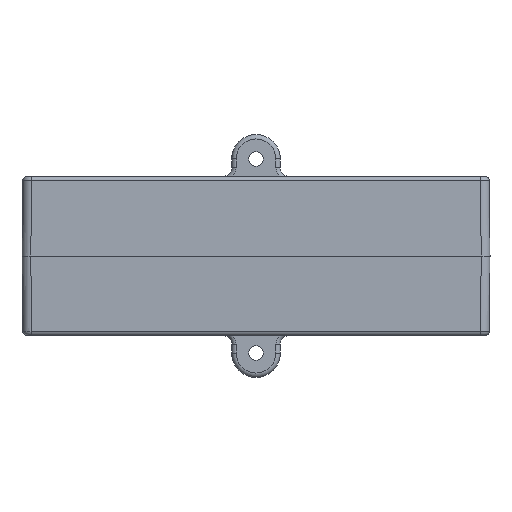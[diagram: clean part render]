
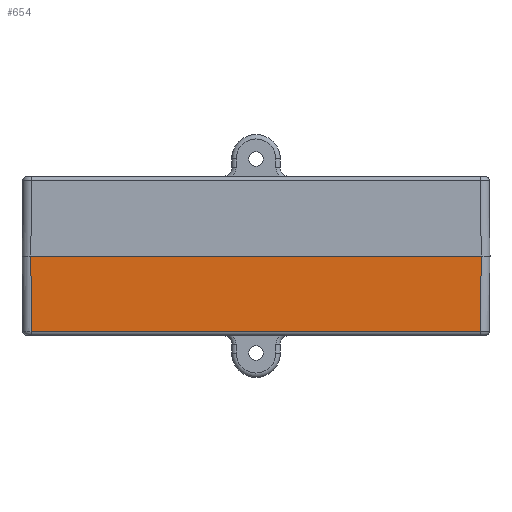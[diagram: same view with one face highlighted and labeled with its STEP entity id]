
A CAD part, front view. The second image highlights one B-rep face of the part: STEP entity #654.
In plain terms, the highlighted planar face has unit normal (0, -1, -0.009).
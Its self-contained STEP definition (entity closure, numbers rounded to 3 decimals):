
#654=ADVANCED_FACE('',(#1690),#1212,.T.);
#1212=PLANE('',#11638);
#1690=FACE_OUTER_BOUND('',#2254,.T.);
#2254=EDGE_LOOP('',(#3556,#3557,#3558,#3559));
#3556=ORIENTED_EDGE('',*,*,#7675,.T.);
#3557=ORIENTED_EDGE('',*,*,#7676,.F.);
#3558=ORIENTED_EDGE('',*,*,#7677,.F.);
#3559=ORIENTED_EDGE('',*,*,#7522,.F.);
#6361=VERTEX_POINT('',#15790);
#6362=VERTEX_POINT('',#15797);
#6494=VERTEX_POINT('',#16117);
#6495=VERTEX_POINT('',#16119);
#7522=EDGE_CURVE('',#6362,#6361,#9090,.T.);
#7675=EDGE_CURVE('',#6362,#6494,#9222,.T.);
#7676=EDGE_CURVE('',#6495,#6494,#9223,.T.);
#7677=EDGE_CURVE('',#6361,#6495,#9224,.T.);
#9090=LINE('',#15796,#10412);
#9222=LINE('',#16116,#10544);
#9223=LINE('',#16118,#10545);
#9224=LINE('',#16120,#10546);
#10412=VECTOR('',#12620,1.);
#10544=VECTOR('',#12816,1.);
#10545=VECTOR('',#12817,1.);
#10546=VECTOR('',#12818,1.);
#11638=AXIS2_PLACEMENT_3D('',#16121,#12819,#12820);
#12620=DIRECTION('',(-0.009,0.009,-1.));
#12816=DIRECTION('',(-1.,0.,0.));
#12817=DIRECTION('',(-0.009,-0.009,1.));
#12818=DIRECTION('',(-1.,0.,0.));
#12819=DIRECTION('',(0.,-1.,-0.009));
#12820=DIRECTION('',(0.,-0.009,1.));
#15790=CARTESIAN_POINT('',(50.852,-57.197,-17.009));
#15796=CARTESIAN_POINT('',(50.994,-57.339,-0.715));
#15797=CARTESIAN_POINT('',(51.,-57.345,0.));
#16116=CARTESIAN_POINT('',(65.,-57.345,0.));
#16117=CARTESIAN_POINT('',(-51.,-57.345,0.));
#16118=CARTESIAN_POINT('',(-50.994,-57.339,-0.715));
#16119=CARTESIAN_POINT('',(-50.852,-57.197,-17.009));
#16120=CARTESIAN_POINT('',(-16.843,-57.197,-17.009));
#16121=CARTESIAN_POINT('',(65.,-57.345,0.));
